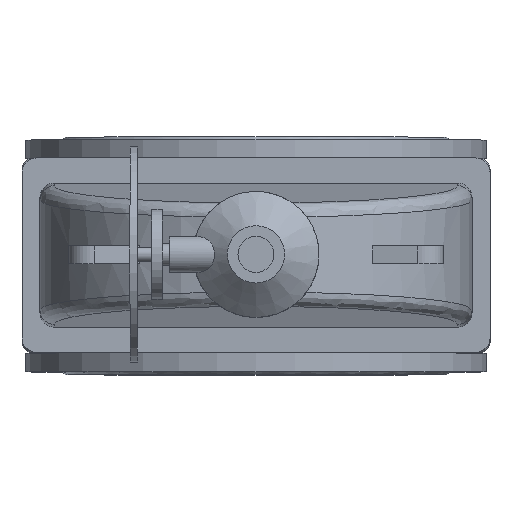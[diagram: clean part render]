
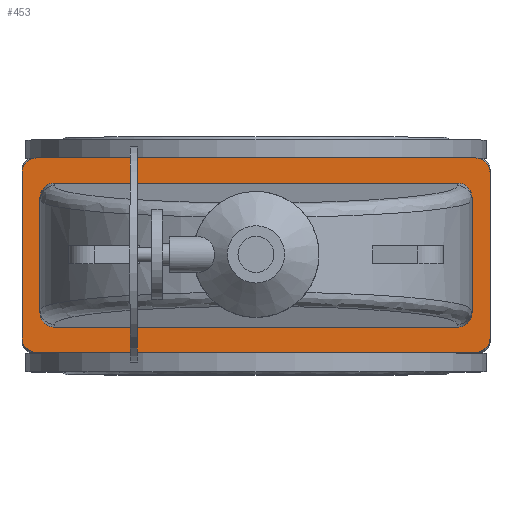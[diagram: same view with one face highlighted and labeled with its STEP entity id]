
A CAD part, top view. The second image highlights one B-rep face of the part: STEP entity #453.
In plain terms, the highlighted planar face has unit normal (0, 0, 1).
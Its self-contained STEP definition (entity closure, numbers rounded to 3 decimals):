
#453=ADVANCED_FACE('',(#4417,#4419),#4421,.T.);
#4417=FACE_BOUND('',#4418,.T.);
#4418=EDGE_LOOP('',(#8498,#8499,#8500,#8501,#8502,#8503,#8504,#8505));
#4419=FACE_BOUND('',#4420,.T.);
#4420=EDGE_LOOP('',(#8506,#8507,#8508,#8509,#8510,#8511,#8512,#8513));
#4421=PLANE('',#4422);
#4422=AXIS2_PLACEMENT_3D('',#4423,#4424,#4425);
#4423=CARTESIAN_POINT('',(0.,0.,686.));
#4424=DIRECTION('',(0.,-0.,1.));
#4425=DIRECTION('',(0.,1.,0.));
#8498=ORIENTED_EDGE('',*,*,#10581,.F.);
#8499=ORIENTED_EDGE('',*,*,#10582,.T.);
#8500=ORIENTED_EDGE('',*,*,#10583,.F.);
#8501=ORIENTED_EDGE('',*,*,#10584,.T.);
#8502=ORIENTED_EDGE('',*,*,#10585,.F.);
#8503=ORIENTED_EDGE('',*,*,#10586,.T.);
#8504=ORIENTED_EDGE('',*,*,#10587,.F.);
#8505=ORIENTED_EDGE('',*,*,#10588,.T.);
#8506=ORIENTED_EDGE('',*,*,#10579,.F.);
#8507=ORIENTED_EDGE('',*,*,#10578,.F.);
#8508=ORIENTED_EDGE('',*,*,#10580,.F.);
#8509=ORIENTED_EDGE('',*,*,#10553,.F.);
#8510=ORIENTED_EDGE('',*,*,#10589,.F.);
#8511=ORIENTED_EDGE('',*,*,#10590,.F.);
#8512=ORIENTED_EDGE('',*,*,#10591,.F.);
#8513=ORIENTED_EDGE('',*,*,#10546,.F.);
#10546=EDGE_CURVE('',#11661,#11663,#11664,.T.);
#10553=EDGE_CURVE('',#11673,#11671,#11675,.T.);
#10578=EDGE_CURVE('',#11714,#11712,#11716,.T.);
#10579=EDGE_CURVE('',#11712,#11661,#11717,.F.);
#10580=EDGE_CURVE('',#11671,#11714,#11718,.T.);
#10581=EDGE_CURVE('',#11719,#11720,#11721,.F.);
#10582=EDGE_CURVE('',#11719,#11722,#11723,.T.);
#10583=EDGE_CURVE('',#11724,#11722,#11725,.F.);
#10584=EDGE_CURVE('',#11724,#11726,#11727,.T.);
#10585=EDGE_CURVE('',#11728,#11726,#11729,.F.);
#10586=EDGE_CURVE('',#11728,#11730,#11731,.T.);
#10587=EDGE_CURVE('',#11732,#11730,#11733,.F.);
#10588=EDGE_CURVE('',#11732,#11720,#11734,.T.);
#10589=EDGE_CURVE('',#11735,#11673,#11736,.F.);
#10590=EDGE_CURVE('',#11737,#11735,#11738,.T.);
#10591=EDGE_CURVE('',#11663,#11737,#11739,.T.);
#11661=VERTEX_POINT('',#13843);
#11663=VERTEX_POINT('',#13847);
#11664=LINE('',#13848,#13849);
#11671=VERTEX_POINT('',#13868);
#11673=VERTEX_POINT('',#13872);
#11675=LINE('',#13876,#13877);
#11712=VERTEX_POINT('',#13969);
#11714=VERTEX_POINT('',#13973);
#11716=LINE('',#13977,#13978);
#11717=(BOUNDED_CURVE()B_SPLINE_CURVE(3,
(#13980,#13981,#13982,#13983),
.UNSPECIFIED.,.F.,.F.)B_SPLINE_CURVE_WITH_KNOTS((4,4),
(0.,1.),
.UNSPECIFIED.)CURVE()GEOMETRIC_REPRESENTATION_ITEM()RATIONAL_B_SPLINE_CURVE((1.,
0.805,0.805,1.))REPRESENTATION_ITEM(''));
#11718=(BOUNDED_CURVE()B_SPLINE_CURVE(3,
(#13984,#13985,#13986,#13987),
.UNSPECIFIED.,.F.,.F.)B_SPLINE_CURVE_WITH_KNOTS((4,4),
(0.,1.),
.UNSPECIFIED.)CURVE()GEOMETRIC_REPRESENTATION_ITEM()RATIONAL_B_SPLINE_CURVE((1.,
0.805,0.805,1.))REPRESENTATION_ITEM(''));
#11719=VERTEX_POINT('',#13988);
#11720=VERTEX_POINT('',#13989);
#11721=CIRCLE('',#13990,20.);
#11722=VERTEX_POINT('',#13994);
#11723=LINE('',#13995,#13996);
#11724=VERTEX_POINT('',#13998);
#11725=CIRCLE('',#13999,20.);
#11726=VERTEX_POINT('',#14003);
#11727=LINE('',#14004,#14005);
#11728=VERTEX_POINT('',#14007);
#11729=CIRCLE('',#14008,20.);
#11730=VERTEX_POINT('',#14012);
#11731=LINE('',#14013,#14014);
#11732=VERTEX_POINT('',#14016);
#11733=CIRCLE('',#14017,20.);
#11734=LINE('',#14021,#14022);
#11735=VERTEX_POINT('',#14024);
#11736=(BOUNDED_CURVE()B_SPLINE_CURVE(3,
(#14025,#14026,#14027,#14028),
.UNSPECIFIED.,.F.,.F.)B_SPLINE_CURVE_WITH_KNOTS((4,4),
(0.,1.),
.UNSPECIFIED.)CURVE()GEOMETRIC_REPRESENTATION_ITEM()RATIONAL_B_SPLINE_CURVE((1.,
0.805,0.805,1.))REPRESENTATION_ITEM(''));
#11737=VERTEX_POINT('',#14029);
#11738=LINE('',#14030,#14031);
#11739=(BOUNDED_CURVE()B_SPLINE_CURVE(3,
(#14033,#14034,#14035,#14036),
.UNSPECIFIED.,.F.,.F.)B_SPLINE_CURVE_WITH_KNOTS((4,4),
(0.,1.),
.UNSPECIFIED.)CURVE()GEOMETRIC_REPRESENTATION_ITEM()RATIONAL_B_SPLINE_CURVE((1.,
0.805,0.805,1.))REPRESENTATION_ITEM(''));
#13843=CARTESIAN_POINT('',(300.,-79.924,686.));
#13847=CARTESIAN_POINT('',(300.,79.924,686.));
#13848=CARTESIAN_POINT('',(300.,-79.924,686.));
#13849=VECTOR('',#13850,1.);
#13850=DIRECTION('',(0.,1.,0.));
#13868=CARTESIAN_POINT('',(-300.,-79.924,686.));
#13872=CARTESIAN_POINT('',(-300.,79.924,686.));
#13876=CARTESIAN_POINT('',(-300.,79.924,686.));
#13877=VECTOR('',#13878,1.);
#13878=DIRECTION('',(0.,-1.,0.));
#13969=CARTESIAN_POINT('',(280.,-100.,686.));
#13973=CARTESIAN_POINT('',(-280.,-100.,686.));
#13977=CARTESIAN_POINT('',(-280.,-100.,686.));
#13978=VECTOR('',#13979,1.);
#13979=DIRECTION('',(1.,0.,0.));
#13980=CARTESIAN_POINT('',(300.,-79.924,686.));
#13981=CARTESIAN_POINT('',(300.,-91.684,686.));
#13982=CARTESIAN_POINT('',(291.716,-100.,686.));
#13983=CARTESIAN_POINT('',(280.,-100.,686.));
#13984=CARTESIAN_POINT('',(-300.,-79.924,686.));
#13985=CARTESIAN_POINT('',(-300.,-91.684,686.));
#13986=CARTESIAN_POINT('',(-291.716,-100.,686.));
#13987=CARTESIAN_POINT('',(-280.,-100.,686.));
#13988=CARTESIAN_POINT('',(-305.,-135.,686.));
#13989=CARTESIAN_POINT('',(-325.,-115.,686.));
#13990=AXIS2_PLACEMENT_3D('',#13991,#13992,#13993);
#13991=CARTESIAN_POINT('',(-305.,-115.,686.));
#13992=DIRECTION('',(0.,-0.,1.));
#13993=DIRECTION('',(-1.,0.,0.));
#13994=CARTESIAN_POINT('',(305.,-135.,686.));
#13995=CARTESIAN_POINT('',(-305.,-135.,686.));
#13996=VECTOR('',#13997,1.);
#13997=DIRECTION('',(1.,0.,0.));
#13998=CARTESIAN_POINT('',(325.,-115.,686.));
#13999=AXIS2_PLACEMENT_3D('',#14000,#14001,#14002);
#14000=CARTESIAN_POINT('',(305.,-115.,686.));
#14001=DIRECTION('',(0.,-0.,1.));
#14002=DIRECTION('',(0.,-1.,0.));
#14003=CARTESIAN_POINT('',(325.,115.,686.));
#14004=CARTESIAN_POINT('',(325.,-115.,686.));
#14005=VECTOR('',#14006,1.);
#14006=DIRECTION('',(0.,1.,0.));
#14007=CARTESIAN_POINT('',(305.,135.,686.));
#14008=AXIS2_PLACEMENT_3D('',#14009,#14010,#14011);
#14009=CARTESIAN_POINT('',(305.,115.,686.));
#14010=DIRECTION('',(0.,-0.,1.));
#14011=DIRECTION('',(1.,0.,0.));
#14012=CARTESIAN_POINT('',(-305.,135.,686.));
#14013=CARTESIAN_POINT('',(305.,135.,686.));
#14014=VECTOR('',#14015,1.);
#14015=DIRECTION('',(-1.,0.,0.));
#14016=CARTESIAN_POINT('',(-325.,115.,686.));
#14017=AXIS2_PLACEMENT_3D('',#14018,#14019,#14020);
#14018=CARTESIAN_POINT('',(-305.,115.,686.));
#14019=DIRECTION('',(0.,-0.,1.));
#14020=DIRECTION('',(0.,1.,0.));
#14021=CARTESIAN_POINT('',(-325.,115.,686.));
#14022=VECTOR('',#14023,1.);
#14023=DIRECTION('',(0.,-1.,0.));
#14024=CARTESIAN_POINT('',(-280.,100.,686.));
#14025=CARTESIAN_POINT('',(-300.,79.924,686.));
#14026=CARTESIAN_POINT('',(-300.,91.684,686.));
#14027=CARTESIAN_POINT('',(-291.716,100.,686.));
#14028=CARTESIAN_POINT('',(-280.,100.,686.));
#14029=CARTESIAN_POINT('',(280.,100.,686.));
#14030=CARTESIAN_POINT('',(280.,100.,686.));
#14031=VECTOR('',#14032,1.);
#14032=DIRECTION('',(-1.,0.,0.));
#14033=CARTESIAN_POINT('',(300.,79.924,686.));
#14034=CARTESIAN_POINT('',(300.,91.684,686.));
#14035=CARTESIAN_POINT('',(291.716,100.,686.));
#14036=CARTESIAN_POINT('',(280.,100.,686.));
